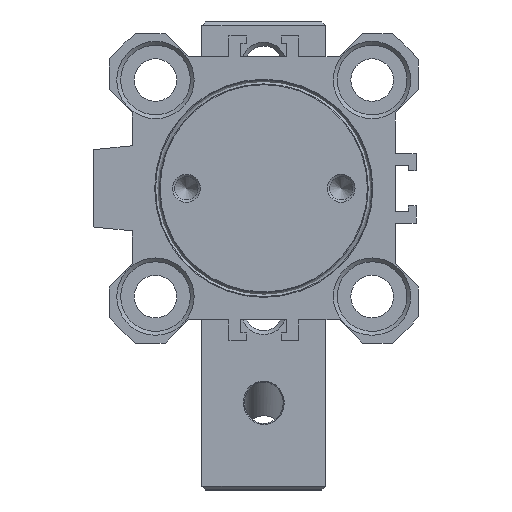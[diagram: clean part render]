
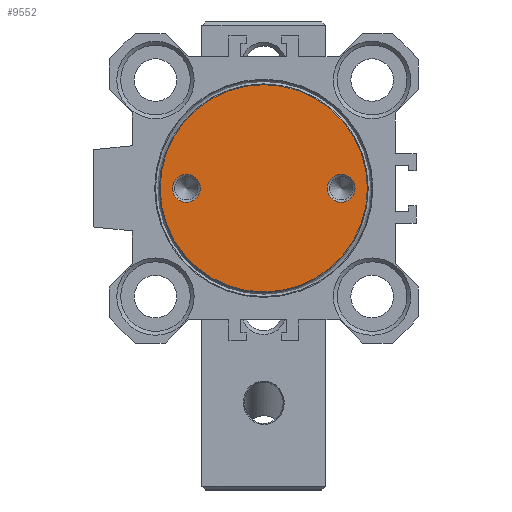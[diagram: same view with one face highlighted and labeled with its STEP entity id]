
A CAD part, front view. The second image highlights one B-rep face of the part: STEP entity #9552.
In plain terms, the highlighted planar face has unit normal (0, -1, 0).
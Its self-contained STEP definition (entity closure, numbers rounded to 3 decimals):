
#371=FACE_BOUND('',#1729,.T.);
#372=FACE_BOUND('',#1730,.T.);
#519=PLANE('',#10914);
#1135=FACE_OUTER_BOUND('',#1728,.T.);
#1728=EDGE_LOOP('',(#8545,#8546));
#1729=EDGE_LOOP('',(#8547,#8548));
#1730=EDGE_LOOP('',(#8549,#8550));
#3505=CIRCLE('',#10811,1.8);
#3506=CIRCLE('',#10812,1.8);
#3509=CIRCLE('',#10816,1.8);
#3510=CIRCLE('',#10817,1.8);
#3519=CIRCLE('',#10832,13.4);
#3520=CIRCLE('',#10833,13.4);
#4466=VERTEX_POINT('',#22102);
#4467=VERTEX_POINT('',#22104);
#4470=VERTEX_POINT('',#22112);
#4471=VERTEX_POINT('',#22114);
#4482=VERTEX_POINT('',#22190);
#4483=VERTEX_POINT('',#22192);
#5808=EDGE_CURVE('',#4467,#4466,#3505,.T.);
#5809=EDGE_CURVE('',#4466,#4467,#3506,.T.);
#5813=EDGE_CURVE('',#4471,#4470,#3509,.T.);
#5814=EDGE_CURVE('',#4470,#4471,#3510,.T.);
#5832=EDGE_CURVE('',#4482,#4483,#3519,.T.);
#5833=EDGE_CURVE('',#4483,#4482,#3520,.T.);
#8545=ORIENTED_EDGE('',*,*,#5833,.F.);
#8546=ORIENTED_EDGE('',*,*,#5832,.F.);
#8547=ORIENTED_EDGE('',*,*,#5813,.T.);
#8548=ORIENTED_EDGE('',*,*,#5814,.T.);
#8549=ORIENTED_EDGE('',*,*,#5808,.T.);
#8550=ORIENTED_EDGE('',*,*,#5809,.T.);
#9552=ADVANCED_FACE('',(#1135,#371,#372),#519,.F.);
#10811=AXIS2_PLACEMENT_3D('',#22105,#13524,#13525);
#10812=AXIS2_PLACEMENT_3D('',#22106,#13526,#13527);
#10816=AXIS2_PLACEMENT_3D('',#22115,#13535,#13536);
#10817=AXIS2_PLACEMENT_3D('',#22116,#13537,#13538);
#10832=AXIS2_PLACEMENT_3D('',#22193,#13574,#13575);
#10833=AXIS2_PLACEMENT_3D('',#22194,#13576,#13577);
#10914=AXIS2_PLACEMENT_3D('',#22329,#13746,#13747);
#13524=DIRECTION('center_axis',(0.,1.,0.));
#13525=DIRECTION('ref_axis',(0.,0.,1.));
#13526=DIRECTION('center_axis',(0.,1.,0.));
#13527=DIRECTION('ref_axis',(0.,0.,1.));
#13535=DIRECTION('center_axis',(0.,1.,0.));
#13536=DIRECTION('ref_axis',(0.,0.,1.));
#13537=DIRECTION('center_axis',(0.,1.,0.));
#13538=DIRECTION('ref_axis',(0.,0.,1.));
#13574=DIRECTION('center_axis',(0.,1.,0.));
#13575=DIRECTION('ref_axis',(0.,0.,1.));
#13576=DIRECTION('center_axis',(0.,1.,0.));
#13577=DIRECTION('ref_axis',(0.,0.,1.));
#13746=DIRECTION('center_axis',(0.,1.,0.));
#13747=DIRECTION('ref_axis',(0.,0.,1.));
#22102=CARTESIAN_POINT('',(36.741,71.078,1.8));
#22104=CARTESIAN_POINT('',(36.741,71.078,-1.8));
#22105=CARTESIAN_POINT('Origin',(36.741,71.078,0.));
#22106=CARTESIAN_POINT('Origin',(36.741,71.078,0.));
#22112=CARTESIAN_POINT('',(56.741,71.078,1.8));
#22114=CARTESIAN_POINT('',(56.741,71.078,-1.8));
#22115=CARTESIAN_POINT('Origin',(56.741,71.078,0.));
#22116=CARTESIAN_POINT('Origin',(56.741,71.078,0.));
#22190=CARTESIAN_POINT('',(46.741,71.078,-13.4));
#22192=CARTESIAN_POINT('',(46.741,71.078,13.4));
#22193=CARTESIAN_POINT('Origin',(46.741,71.078,0.));
#22194=CARTESIAN_POINT('Origin',(46.741,71.078,0.));
#22329=CARTESIAN_POINT('Origin',(58.241,71.078,0.));
